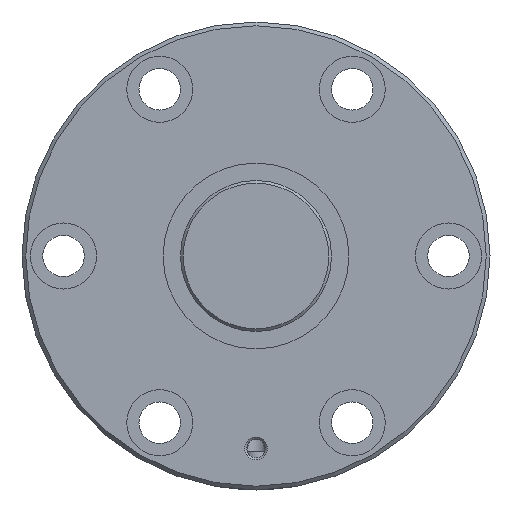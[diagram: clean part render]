
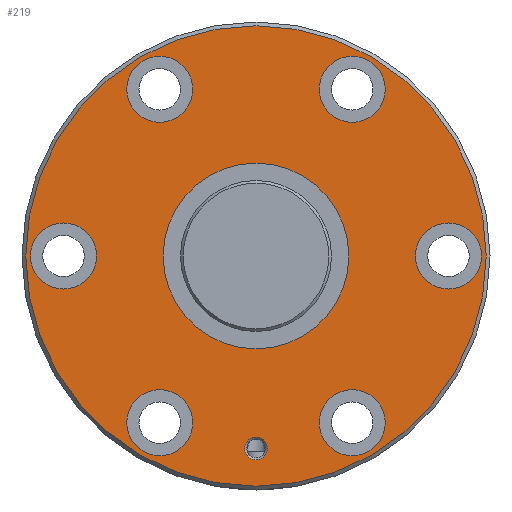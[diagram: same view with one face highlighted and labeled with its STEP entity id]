
A CAD part, left-side view. The second image highlights one B-rep face of the part: STEP entity #219.
In plain terms, the highlighted planar face has unit normal (-1, 0, 0).
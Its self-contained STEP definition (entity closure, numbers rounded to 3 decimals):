
#219 = ADVANCED_FACE( '', ( #390, #391, #392, #393, #394, #395, #396, #397, #398 ), #399, .T. );
#390 = FACE_BOUND( '', #629, .T. );
#391 = FACE_BOUND( '', #630, .T. );
#392 = FACE_BOUND( '', #631, .T. );
#393 = FACE_BOUND( '', #632, .T. );
#394 = FACE_BOUND( '', #633, .T. );
#395 = FACE_BOUND( '', #634, .T. );
#396 = FACE_BOUND( '', #635, .T. );
#397 = FACE_BOUND( '', #636, .T. );
#398 = FACE_OUTER_BOUND( '', #637, .T. );
#399 = PLANE( '', #638 );
#629 = EDGE_LOOP( '', ( #1059 ) );
#630 = EDGE_LOOP( '', ( #1060 ) );
#631 = EDGE_LOOP( '', ( #1061 ) );
#632 = EDGE_LOOP( '', ( #1062 ) );
#633 = EDGE_LOOP( '', ( #1063 ) );
#634 = EDGE_LOOP( '', ( #1064 ) );
#635 = EDGE_LOOP( '', ( #1065 ) );
#636 = EDGE_LOOP( '', ( #1066 ) );
#637 = EDGE_LOOP( '', ( #1067 ) );
#638 = AXIS2_PLACEMENT_3D( '', #1068, #1069, #1070 );
#1059 = ORIENTED_EDGE( '', *, *, #1342, .T. );
#1060 = ORIENTED_EDGE( '', *, *, #1343, .T. );
#1061 = ORIENTED_EDGE( '', *, *, #1265, .T. );
#1062 = ORIENTED_EDGE( '', *, *, #1341, .T. );
#1063 = ORIENTED_EDGE( '', *, *, #1344, .T. );
#1064 = ORIENTED_EDGE( '', *, *, #1345, .T. );
#1065 = ORIENTED_EDGE( '', *, *, #1346, .T. );
#1066 = ORIENTED_EDGE( '', *, *, #1347, .T. );
#1067 = ORIENTED_EDGE( '', *, *, #1348, .F. );
#1068 = CARTESIAN_POINT( '', ( 0., 61., 0. ) );
#1069 = DIRECTION( '', ( -1., 0., 0. ) );
#1070 = DIRECTION( '', ( 0., 0., 1. ) );
#1265 = EDGE_CURVE( '', #1419, #1419, #1420, .T. );
#1341 = EDGE_CURVE( '', #1549, #1549, #1550, .T. );
#1342 = EDGE_CURVE( '', #1551, #1551, #1552, .T. );
#1343 = EDGE_CURVE( '', #1553, #1553, #1554, .F. );
#1344 = EDGE_CURVE( '', #1555, #1555, #1556, .T. );
#1345 = EDGE_CURVE( '', #1557, #1557, #1558, .T. );
#1346 = EDGE_CURVE( '', #1559, #1559, #1560, .T. );
#1347 = EDGE_CURVE( '', #1561, #1561, #1562, .T. );
#1348 = EDGE_CURVE( '', #1563, #1563, #1564, .T. );
#1419 = VERTEX_POINT( '', #1778 );
#1420 = CIRCLE( '', #1779, 3. );
#1549 = VERTEX_POINT( '', #2200 );
#1550 = CIRCLE( '', #2201, 8.75 );
#1551 = VERTEX_POINT( '', #2202 );
#1552 = CIRCLE( '', #2203, 24.6 );
#1553 = VERTEX_POINT( '', #2204 );
#1554 = CIRCLE( '', #2205, 8.75 );
#1555 = VERTEX_POINT( '', #2206 );
#1556 = CIRCLE( '', #2207, 8.75 );
#1557 = VERTEX_POINT( '', #2208 );
#1558 = CIRCLE( '', #2209, 8.75 );
#1559 = VERTEX_POINT( '', #2210 );
#1560 = CIRCLE( '', #2211, 8.75 );
#1561 = VERTEX_POINT( '', #2212 );
#1562 = CIRCLE( '', #2213, 8.75 );
#1563 = VERTEX_POINT( '', #2214 );
#1564 = CIRCLE( '', #2215, 61. );
#1778 = CARTESIAN_POINT( '', ( 0., 0., -54. ) );
#1779 = AXIS2_PLACEMENT_3D( '', #2377, #2378, #2379 );
#2200 = CARTESIAN_POINT( '', ( 0., 25.5, 35.417 ) );
#2201 = AXIS2_PLACEMENT_3D( '', #2529, #2530, #2531 );
#2202 = CARTESIAN_POINT( '', ( 0., 0., -24.6 ) );
#2203 = AXIS2_PLACEMENT_3D( '', #2532, #2533, #2534 );
#2204 = CARTESIAN_POINT( '', ( 0., 51., 8.75 ) );
#2205 = AXIS2_PLACEMENT_3D( '', #2535, #2536, #2537 );
#2206 = CARTESIAN_POINT( '', ( 0., -25.5, -52.917 ) );
#2207 = AXIS2_PLACEMENT_3D( '', #2538, #2539, #2540 );
#2208 = CARTESIAN_POINT( '', ( 0., -25.5, 35.417 ) );
#2209 = AXIS2_PLACEMENT_3D( '', #2541, #2542, #2543 );
#2210 = CARTESIAN_POINT( '', ( 0., 25.5, -52.917 ) );
#2211 = AXIS2_PLACEMENT_3D( '', #2544, #2545, #2546 );
#2212 = CARTESIAN_POINT( '', ( 0., -51., -8.75 ) );
#2213 = AXIS2_PLACEMENT_3D( '', #2547, #2548, #2549 );
#2214 = CARTESIAN_POINT( '', ( 0., 0., -61. ) );
#2215 = AXIS2_PLACEMENT_3D( '', #2550, #2551, #2552 );
#2377 = CARTESIAN_POINT( '', ( 0., 0., -51. ) );
#2378 = DIRECTION( '', ( 1., 0., 0. ) );
#2379 = DIRECTION( '', ( 0., 0., -1. ) );
#2529 = CARTESIAN_POINT( '', ( 0., 25.5, 44.167 ) );
#2530 = DIRECTION( '', ( 1., 0., 0. ) );
#2531 = DIRECTION( '', ( 0., 0., -1. ) );
#2532 = CARTESIAN_POINT( '', ( 0., 0., 0. ) );
#2533 = DIRECTION( '', ( 1., 0., 0. ) );
#2534 = DIRECTION( '', ( 0., 0., -1. ) );
#2535 = CARTESIAN_POINT( '', ( 0., 51., 0. ) );
#2536 = DIRECTION( '', ( -1., 0., 0. ) );
#2537 = DIRECTION( '', ( 0., 0., 1. ) );
#2538 = CARTESIAN_POINT( '', ( 0., -25.5, -44.167 ) );
#2539 = DIRECTION( '', ( 1., 0., 0. ) );
#2540 = DIRECTION( '', ( 0., 0., -1. ) );
#2541 = CARTESIAN_POINT( '', ( 0., -25.5, 44.167 ) );
#2542 = DIRECTION( '', ( 1., 0., 0. ) );
#2543 = DIRECTION( '', ( 0., 0., -1. ) );
#2544 = CARTESIAN_POINT( '', ( 0., 25.5, -44.167 ) );
#2545 = DIRECTION( '', ( 1., 0., 0. ) );
#2546 = DIRECTION( '', ( 0., 0., -1. ) );
#2547 = CARTESIAN_POINT( '', ( 0., -51., 0. ) );
#2548 = DIRECTION( '', ( 1., 0., 0. ) );
#2549 = DIRECTION( '', ( 0., 0., -1. ) );
#2550 = CARTESIAN_POINT( '', ( 0., 0., 0. ) );
#2551 = DIRECTION( '', ( 1., 0., 0. ) );
#2552 = DIRECTION( '', ( 0., 0., -1. ) );
